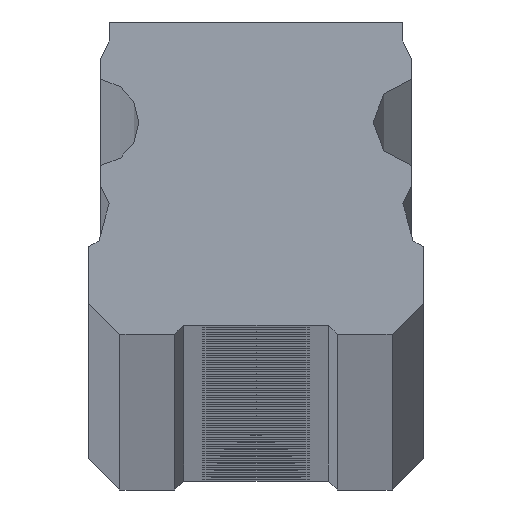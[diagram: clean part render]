
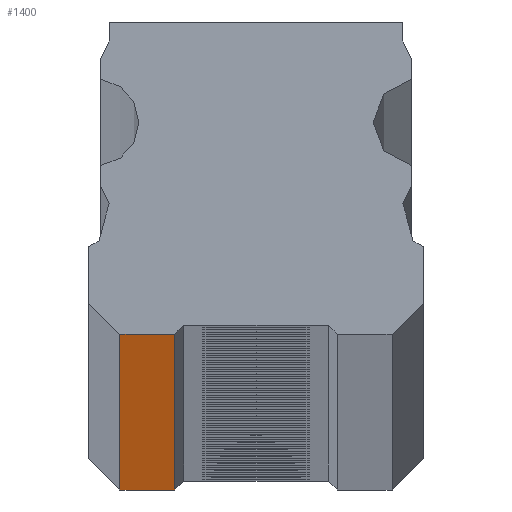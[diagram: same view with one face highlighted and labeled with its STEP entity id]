
A CAD part, top view. The second image highlights one B-rep face of the part: STEP entity #1400.
In plain terms, the highlighted planar face has unit normal (0, -1, 0).
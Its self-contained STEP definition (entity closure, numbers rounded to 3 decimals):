
#542 = VERTEX_POINT ( 'NONE', #4224 ) ;
#543 = VERTEX_POINT ( 'NONE', #4225 ) ;
#557 = VERTEX_POINT ( 'NONE', #4239 ) ;
#579 = VERTEX_POINT ( 'NONE', #4261 ) ;
#1106 = EDGE_CURVE ( 'NONE', #542, #543, #5168, .T. ) ;
#1184 = EDGE_CURVE ( 'NONE', #542, #557, #5261, .T. ) ;
#1400 = ADVANCED_FACE ( 'NONE', ( #7244 ), #6605, .F. ) ;
#2130 = EDGE_CURVE ( 'NONE', #579, #543, #7322, .T. ) ;
#2142 = EDGE_CURVE ( 'NONE', #557, #579, #7345, .T. ) ;
#2497 = EDGE_LOOP ( 'NONE', ( #2629, #2630, #2631, #2632 ) ) ;
#2629 = ORIENTED_EDGE ( 'NONE', *, *, #1106, .T. ) ;
#2630 = ORIENTED_EDGE ( 'NONE', *, *, #2130, .F. ) ;
#2631 = ORIENTED_EDGE ( 'NONE', *, *, #2142, .F. ) ;
#2632 = ORIENTED_EDGE ( 'NONE', *, *, #1184, .F. ) ;
#4224 = CARTESIAN_POINT ( 'NONE',  ( -3.65, 0., -2000. ) ) ;
#4225 = CARTESIAN_POINT ( 'NONE',  ( -3.65, 0., 2000. ) ) ;
#4239 = CARTESIAN_POINT ( 'NONE',  ( -6.1, 0., -2000. ) ) ;
#4261 = CARTESIAN_POINT ( 'NONE',  ( -6.1, 0., 2000. ) ) ;
#4933 = CARTESIAN_POINT ( 'NONE',  ( -3.65, 0., -2000. ) ) ;
#4934 = DIRECTION ( 'NONE',  ( 0., 0., 1. ) ) ;
#5168 = LINE ( 'NONE', #4933, #5169 ) ;
#5169 = VECTOR ( 'NONE', #4934, 1000. ) ;
#5261 = LINE ( 'NONE', #5971, #5262 ) ;
#5262 = VECTOR ( 'NONE', #5972, 1000. ) ;
#5971 = CARTESIAN_POINT ( 'NONE',  ( -7.5, 0., -2000. ) ) ;
#5972 = DIRECTION ( 'NONE',  ( -1., 0., 0. ) ) ;
#6605 = PLANE ( 'NONE',  #7551 ) ;
#6608 = CARTESIAN_POINT ( 'NONE',  ( -7.5, 0., 2020.518 ) ) ;
#6614 = DIRECTION ( 'NONE',  ( 0., 1., 0. ) ) ;
#6615 = DIRECTION ( 'NONE',  ( 0., 0., 1. ) ) ;
#6768 = CARTESIAN_POINT ( 'NONE',  ( -7.5, 0., 2000. ) ) ;
#6769 = DIRECTION ( 'NONE',  ( 1., 0., 0. ) ) ;
#6792 = CARTESIAN_POINT ( 'NONE',  ( -6.1, 0., -2000. ) ) ;
#6793 = DIRECTION ( 'NONE',  ( 0., 0., 1. ) ) ;
#7244 = FACE_OUTER_BOUND ( 'NONE', #2497, .T. ) ;
#7322 = LINE ( 'NONE', #6768, #7323 ) ;
#7323 = VECTOR ( 'NONE', #6769, 1000. ) ;
#7345 = LINE ( 'NONE', #6792, #7346 ) ;
#7346 = VECTOR ( 'NONE', #6793, 1000. ) ;
#7551 = AXIS2_PLACEMENT_3D ( 'NONE', #6608, #6614, #6615 ) ;
